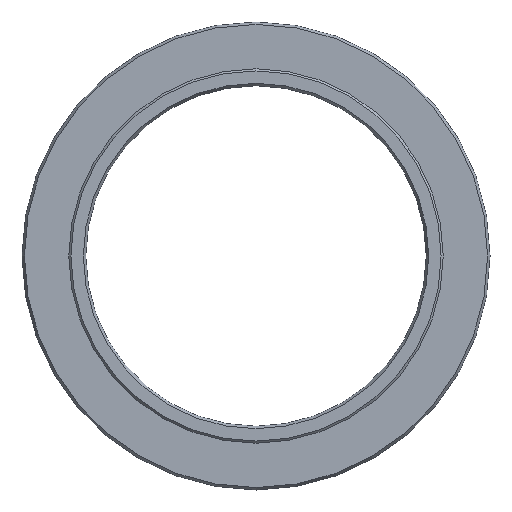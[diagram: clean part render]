
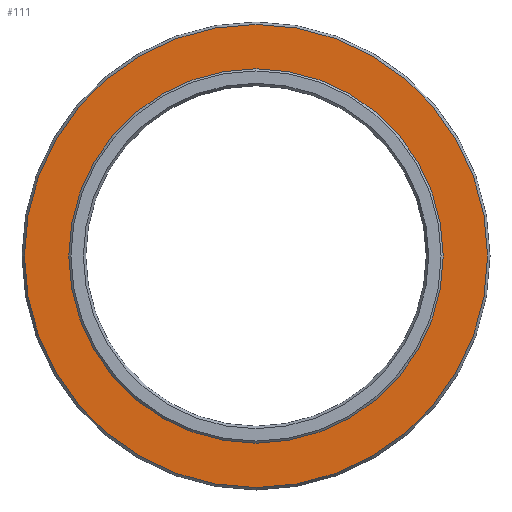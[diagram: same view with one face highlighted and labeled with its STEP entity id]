
A CAD part, left-side view. The second image highlights one B-rep face of the part: STEP entity #111.
In plain terms, the highlighted planar face has unit normal (-1, 0, 0).
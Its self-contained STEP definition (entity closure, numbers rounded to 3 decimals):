
#97=PLANE('',#323);
#111=ADVANCED_FACE('',(#144,#145),#97,.T.);
#144=FACE_BOUND('',#175,.T.);
#145=FACE_BOUND('',#176,.T.);
#175=EDGE_LOOP('',(#214));
#176=EDGE_LOOP('',(#215));
#214=ORIENTED_EDGE('',*,*,#279,.T.);
#215=ORIENTED_EDGE('',*,*,#280,.T.);
#258=VERTEX_POINT('',#461);
#259=VERTEX_POINT('',#463);
#279=EDGE_CURVE('',#258,#258,#298,.T.);
#280=EDGE_CURVE('',#259,#259,#299,.T.);
#298=CIRCLE('',#321,54.423);
#299=CIRCLE('',#322,44.);
#321=AXIS2_PLACEMENT_3D('',#460,#369,#370);
#322=AXIS2_PLACEMENT_3D('',#462,#371,#372);
#323=AXIS2_PLACEMENT_3D('',#464,#373,#374);
#369=DIRECTION('',(-1.,0.,0.));
#370=DIRECTION('',(0.,0.,1.));
#371=DIRECTION('',(1.,0.,0.));
#372=DIRECTION('',(0.,0.,-1.));
#373=DIRECTION('',(-1.,0.,0.));
#374=DIRECTION('',(0.,0.,1.));
#460=CARTESIAN_POINT('',(0.,0.,0.));
#461=CARTESIAN_POINT('',(0.,0.,54.423));
#462=CARTESIAN_POINT('',(0.,0.,0.));
#463=CARTESIAN_POINT('',(0.,0.,-44.));
#464=CARTESIAN_POINT('',(0.,55.,0.));
